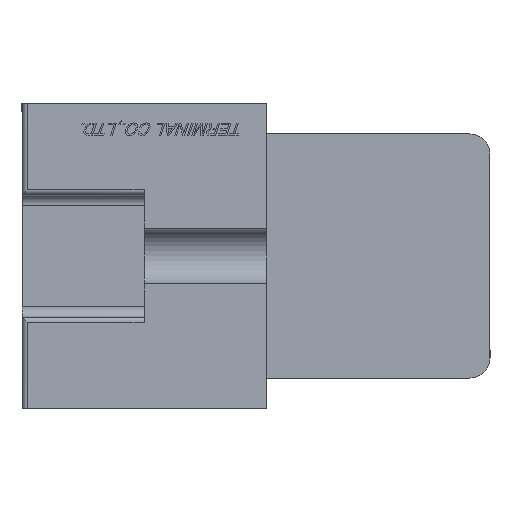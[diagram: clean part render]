
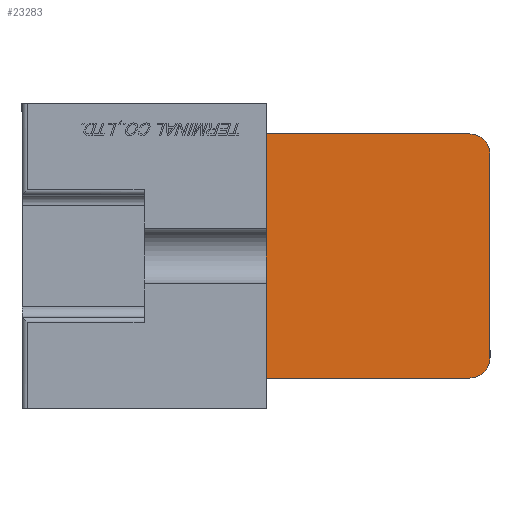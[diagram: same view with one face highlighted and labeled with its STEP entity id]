
A CAD part, left-side view. The second image highlights one B-rep face of the part: STEP entity #23283.
In plain terms, the highlighted planar face has unit normal (-1, 0, 0).
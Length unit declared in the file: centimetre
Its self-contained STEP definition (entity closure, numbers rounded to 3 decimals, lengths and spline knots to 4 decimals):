
#1294=VECTOR('',#25413,1.);
#1338=VECTOR('',#25554,1.);
#1339=VECTOR('',#25555,1.);
#1340=VECTOR('',#25556,1.);
#3059=LINE('',#32628,#1294);
#3103=LINE('',#32867,#1338);
#3104=LINE('',#32869,#1339);
#3105=LINE('',#32871,#1340);
#4552=PLANE('',#42698);
#5520=VERTEX_POINT('',#32536);
#5521=VERTEX_POINT('',#32538);
#5532=VERTEX_POINT('',#32629);
#5533=VERTEX_POINT('',#32633);
#5578=VERTEX_POINT('',#32868);
#5579=VERTEX_POINT('',#32870);
#7599=CIRCLE('',#42639,0.2);
#7601=CIRCLE('',#42643,0.2);
#9293=EDGE_CURVE('',#5520,#5521,#7599,.T.);
#9306=EDGE_CURVE('',#5532,#5521,#3059,.T.);
#9308=EDGE_CURVE('',#5532,#5533,#7601,.T.);
#9384=EDGE_CURVE('',#5578,#5520,#3103,.T.);
#9385=EDGE_CURVE('',#5579,#5578,#3104,.T.);
#9386=EDGE_CURVE('',#5579,#5533,#3105,.T.);
#13457=ORIENTED_EDGE('',*,*,#9293,.F.);
#13458=ORIENTED_EDGE('',*,*,#9384,.F.);
#13459=ORIENTED_EDGE('',*,*,#9385,.F.);
#13460=ORIENTED_EDGE('',*,*,#9386,.T.);
#13461=ORIENTED_EDGE('',*,*,#9308,.F.);
#13462=ORIENTED_EDGE('',*,*,#9306,.T.);
#19527=EDGE_LOOP('',(#13457,#13458,#13459,#13460,#13461,#13462));
#21418=FACE_BOUND('',#19527,.T.);
#23283=ADVANCED_FACE('',(#21418),#4552,.T.);
#25400=DIRECTION('',(1.,0.,0.));
#25401=DIRECTION('',(0.,-0.141,0.141));
#25413=DIRECTION('',(0.,0.,1.));
#25417=DIRECTION('',(1.,0.,0.));
#25418=DIRECTION('',(0.,-0.141,-0.141));
#25553=DIRECTION('',(-1.,0.,0.));
#25554=DIRECTION('',(0.,-1.,0.));
#25555=DIRECTION('',(0.,0.,1.));
#25556=DIRECTION('',(0.,-1.,0.));
#32536=CARTESIAN_POINT('',(-4.15,-0.9,1.2));
#32537=CARTESIAN_POINT('',(-4.15,-0.9,1.));
#32538=CARTESIAN_POINT('',(-4.15,-1.1,1.));
#32628=CARTESIAN_POINT('',(-4.15,-1.1,-1.2));
#32629=CARTESIAN_POINT('',(-4.15,-1.1,-1.));
#32632=CARTESIAN_POINT('',(-4.15,-0.9,-1.));
#32633=CARTESIAN_POINT('',(-4.15,-0.9,-1.2));
#32866=CARTESIAN_POINT('',(-4.15,1.1,0.));
#32867=CARTESIAN_POINT('',(-4.15,1.1,1.2));
#32868=CARTESIAN_POINT('',(-4.15,1.1,1.2));
#32869=CARTESIAN_POINT('',(-4.15,1.1,0.));
#32870=CARTESIAN_POINT('',(-4.15,1.1,-1.2));
#32871=CARTESIAN_POINT('',(-4.15,1.1,-1.2));
#42639=AXIS2_PLACEMENT_3D('',#32537,#25400,#25401);
#42643=AXIS2_PLACEMENT_3D('',#32632,#25417,#25418);
#42698=AXIS2_PLACEMENT_3D('',#32866,#25553,$);
